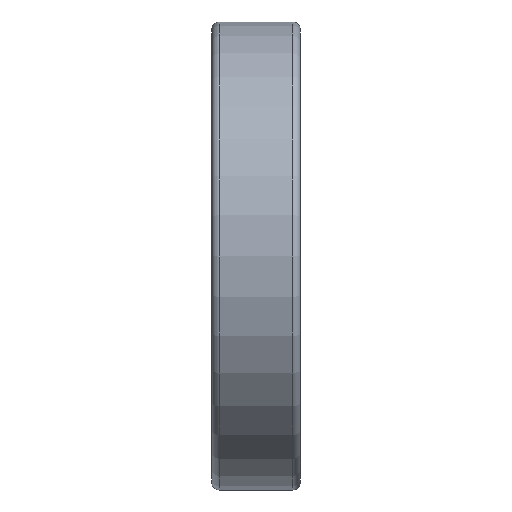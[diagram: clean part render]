
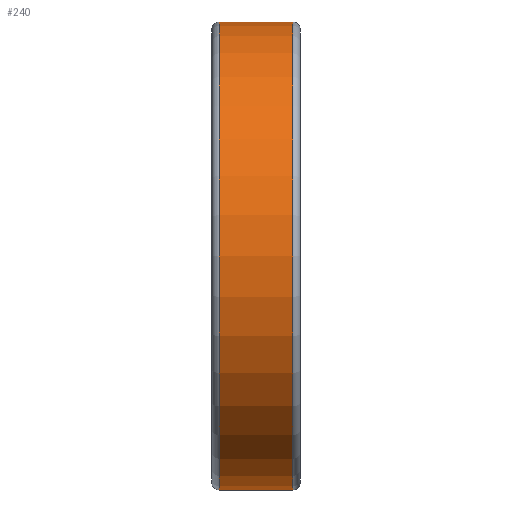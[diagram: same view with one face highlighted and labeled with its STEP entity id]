
A CAD part, front view. The second image highlights one B-rep face of the part: STEP entity #240.
In plain terms, the highlighted cylindrical face has radius 18.5 mm (diameter 37 mm), a full revolution.
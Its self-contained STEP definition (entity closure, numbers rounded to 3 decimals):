
#240 = ADVANCED_FACE( '', ( #370, #371 ), #372, .T. );
#370 = FACE_OUTER_BOUND( '', #453, .T. );
#371 = FACE_OUTER_BOUND( '', #454, .T. );
#372 = CYLINDRICAL_SURFACE( '', #455, 18.5 );
#453 = EDGE_LOOP( '', ( #536 ) );
#454 = EDGE_LOOP( '', ( #537 ) );
#455 = AXIS2_PLACEMENT_3D( '', #538, #539, #540 );
#536 = ORIENTED_EDGE( '', *, *, #619, .T. );
#537 = ORIENTED_EDGE( '', *, *, #620, .F. );
#538 = CARTESIAN_POINT( '', ( 200., 0., 0. ) );
#539 = DIRECTION( '', ( -1., 0., 0. ) );
#540 = DIRECTION( '', ( 0., 0., -1. ) );
#619 = EDGE_CURVE( '', #663, #663, #664, .T. );
#620 = EDGE_CURVE( '', #665, #665, #666, .T. );
#663 = VERTEX_POINT( '', #712 );
#664 = CIRCLE( '', #713, 18.5 );
#665 = VERTEX_POINT( '', #714 );
#666 = CIRCLE( '', #715, 18.5 );
#712 = CARTESIAN_POINT( '', ( 0.6, 0., -18.5 ) );
#713 = AXIS2_PLACEMENT_3D( '', #763, #764, #765 );
#714 = CARTESIAN_POINT( '', ( 6.4, 0., -18.5 ) );
#715 = AXIS2_PLACEMENT_3D( '', #766, #767, #768 );
#763 = CARTESIAN_POINT( '', ( 0.6, 0., 0. ) );
#764 = DIRECTION( '', ( 1., 0., 0. ) );
#765 = DIRECTION( '', ( 0., 0., -1. ) );
#766 = CARTESIAN_POINT( '', ( 6.4, 0., 0. ) );
#767 = DIRECTION( '', ( 1., 0., 0. ) );
#768 = DIRECTION( '', ( 0., 0., -1. ) );
